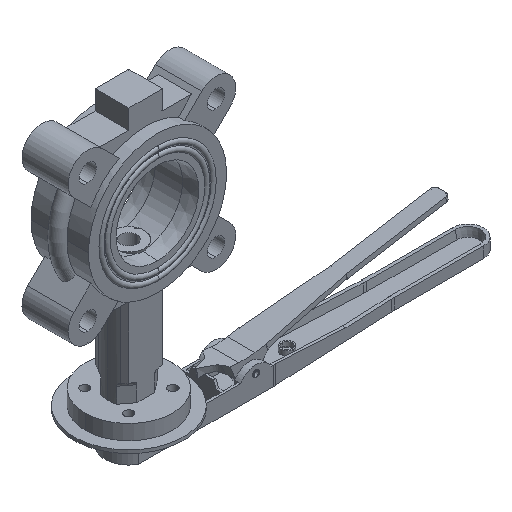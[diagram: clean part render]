
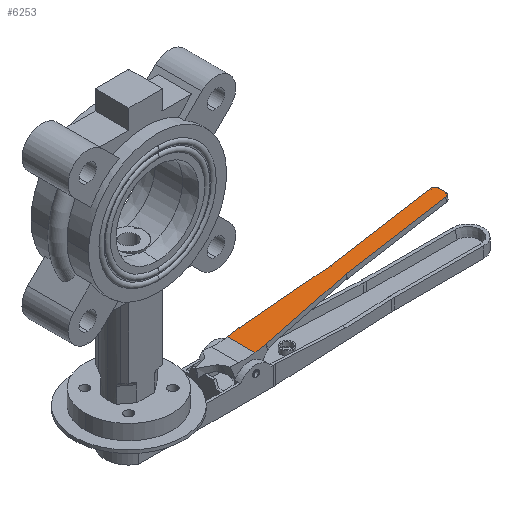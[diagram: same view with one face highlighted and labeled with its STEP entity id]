
A CAD part, isometric view. The second image highlights one B-rep face of the part: STEP entity #6253.
In plain terms, the highlighted planar face has unit normal (-0.165, 0, 0.986) as drawn and (0, 1, 0) by its records, which use the part's own axes.
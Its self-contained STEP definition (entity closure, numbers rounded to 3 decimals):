
#191 = LINE ( 'NONE', #7887, #8851 ) ;
#205 = CARTESIAN_POINT ( 'NONE',  ( 85.893, 0., 6.008 ) ) ;
#444 = CARTESIAN_POINT ( 'NONE',  ( 167., 0., 6. ) ) ;
#456 = VECTOR ( 'NONE', #462, 1000. ) ;
#462 = DIRECTION ( 'NONE',  ( -0.997, 0., -0.071 ) ) ;
#614 = DIRECTION ( 'NONE',  ( 0., -1., 0. ) ) ;
#727 = CARTESIAN_POINT ( 'NONE',  ( 15.893, 0., -11. ) ) ;
#1055 = VERTEX_POINT ( 'NONE', #8072 ) ;
#1207 = AXIS2_PLACEMENT_3D ( 'NONE', #9588, #3716, #1973 ) ;
#1222 = DIRECTION ( 'NONE',  ( 0., 0., -1. ) ) ;
#1472 = ORIENTED_EDGE ( 'NONE', *, *, #3958, .T. ) ;
#1489 = VERTEX_POINT ( 'NONE', #4952 ) ;
#1560 = VERTEX_POINT ( 'NONE', #7443 ) ;
#1562 = DIRECTION ( 'NONE',  ( 0., -1., 0. ) ) ;
#1565 = CARTESIAN_POINT ( 'NONE',  ( 6.654, 0., 6. ) ) ;
#1577 = VECTOR ( 'NONE', #1222, 1000. ) ;
#1651 = DIRECTION ( 'NONE',  ( 0., 1., 0. ) ) ;
#1780 = AXIS2_PLACEMENT_3D ( 'NONE', #8752, #1651, #8584 ) ;
#1968 = EDGE_CURVE ( 'NONE', #1560, #2016, #5473, .T. ) ;
#1973 = DIRECTION ( 'NONE',  ( 0., 0., -1. ) ) ;
#2016 = VERTEX_POINT ( 'NONE', #7859 ) ;
#2258 = ORIENTED_EDGE ( 'NONE', *, *, #6124, .T. ) ;
#2296 = DIRECTION ( 'NONE',  ( 0., 0., -1. ) ) ;
#2311 = DIRECTION ( 'NONE',  ( -1., 0., 0. ) ) ;
#2389 = DIRECTION ( 'NONE',  ( 0., 1., 0. ) ) ;
#2417 = CARTESIAN_POINT ( 'NONE',  ( 15.893, 0., 8. ) ) ;
#2477 = AXIS2_PLACEMENT_3D ( 'NONE', #2417, #9411, #6725 ) ;
#2605 = CARTESIAN_POINT ( 'NONE',  ( 167., 0., 3. ) ) ;
#2973 = ORIENTED_EDGE ( 'NONE', *, *, #1968, .T. ) ;
#2987 = CARTESIAN_POINT ( 'NONE',  ( 6.654, 0., 11. ) ) ;
#3009 = EDGE_CURVE ( 'NONE', #1055, #6862, #4058, .T. ) ;
#3149 = CARTESIAN_POINT ( 'NONE',  ( 6.654, 0., 11. ) ) ;
#3151 = DIRECTION ( 'NONE',  ( 1., 0., 0. ) ) ;
#3272 = EDGE_CURVE ( 'NONE', #6862, #4372, #5307, .T. ) ;
#3558 = CARTESIAN_POINT ( 'NONE',  ( 6.654, 0., 11. ) ) ;
#3628 = ORIENTED_EDGE ( 'NONE', *, *, #10866, .T. ) ;
#3716 = DIRECTION ( 'NONE',  ( 0., -1., 0. ) ) ;
#3775 = DIRECTION ( 'NONE',  ( 0., 0., -1. ) ) ;
#3875 = CARTESIAN_POINT ( 'NONE',  ( 6.654, 0., -6. ) ) ;
#3958 = EDGE_CURVE ( 'NONE', #9705, #7500, #4474, .T. ) ;
#4055 = CARTESIAN_POINT ( 'NONE',  ( 16.107, 0., 10.992 ) ) ;
#4058 = LINE ( 'NONE', #2987, #7364 ) ;
#4069 = DIRECTION ( 'NONE',  ( 0., 0., -1. ) ) ;
#4137 = DIRECTION ( 'NONE',  ( 0., 1., 0. ) ) ;
#4196 = DIRECTION ( 'NONE',  ( 0., 0., -1. ) ) ;
#4261 = VERTEX_POINT ( 'NONE', #727 ) ;
#4372 = VERTEX_POINT ( 'NONE', #4561 ) ;
#4474 = CIRCLE ( 'NONE', #1780, 3. ) ;
#4526 = ORIENTED_EDGE ( 'NONE', *, *, #9746, .T. ) ;
#4561 = CARTESIAN_POINT ( 'NONE',  ( 6.654, 0., -11. ) ) ;
#4778 = LINE ( 'NONE', #9113, #456 ) ;
#4907 = ORIENTED_EDGE ( 'NONE', *, *, #7635, .T. ) ;
#4913 = LINE ( 'NONE', #1565, #10628 ) ;
#4952 = CARTESIAN_POINT ( 'NONE',  ( 16.107, 0., -10.992 ) ) ;
#4984 = CIRCLE ( 'NONE', #9656, 3. ) ;
#5045 = ORIENTED_EDGE ( 'NONE', *, *, #8877, .T. ) ;
#5307 = LINE ( 'NONE', #8963, #1577 ) ;
#5315 = CARTESIAN_POINT ( 'NONE',  ( 170., 0., 11. ) ) ;
#5370 = CARTESIAN_POINT ( 'NONE',  ( 170., 0., 3. ) ) ;
#5473 = CIRCLE ( 'NONE', #6911, 3. ) ;
#5873 = FACE_OUTER_BOUND ( 'NONE', #9733, .T. ) ;
#5946 = ORIENTED_EDGE ( 'NONE', *, *, #10982, .T. ) ;
#5953 = DIRECTION ( 'NONE',  ( 0., 0., -1. ) ) ;
#5960 = CIRCLE ( 'NONE', #8834, 3. ) ;
#6096 = CIRCLE ( 'NONE', #1207, 3. ) ;
#6124 = EDGE_CURVE ( 'NONE', #7500, #1560, #8964, .T. ) ;
#6253 = ADVANCED_FACE ( 'NONE', ( #5873 ), #8508, .F. ) ;
#6602 = VERTEX_POINT ( 'NONE', #444 ) ;
#6725 = DIRECTION ( 'NONE',  ( 0., 0., -1. ) ) ;
#6734 = EDGE_CURVE ( 'NONE', #6602, #10145, #5960, .T. ) ;
#6862 = VERTEX_POINT ( 'NONE', #3558 ) ;
#6911 = AXIS2_PLACEMENT_3D ( 'NONE', #8365, #614, #4069 ) ;
#7102 = VERTEX_POINT ( 'NONE', #7685 ) ;
#7210 = ORIENTED_EDGE ( 'NONE', *, *, #6734, .T. ) ;
#7349 = VECTOR ( 'NONE', #3775, 1000. ) ;
#7364 = VECTOR ( 'NONE', #2311, 1000. ) ;
#7415 = VECTOR ( 'NONE', #9860, 1000. ) ;
#7443 = CARTESIAN_POINT ( 'NONE',  ( 86.107, 0., -6. ) ) ;
#7482 = CARTESIAN_POINT ( 'NONE',  ( 170., 0., -3. ) ) ;
#7500 = VERTEX_POINT ( 'NONE', #8064 ) ;
#7635 = EDGE_CURVE ( 'NONE', #7102, #6602, #4913, .T. ) ;
#7685 = CARTESIAN_POINT ( 'NONE',  ( 86.107, 0., 6. ) ) ;
#7733 = ORIENTED_EDGE ( 'NONE', *, *, #3009, .F. ) ;
#7840 = EDGE_CURVE ( 'NONE', #4261, #4372, #191, .T. ) ;
#7859 = CARTESIAN_POINT ( 'NONE',  ( 85.893, 0., -6.008 ) ) ;
#7887 = CARTESIAN_POINT ( 'NONE',  ( 6.654, 0., -11. ) ) ;
#8064 = CARTESIAN_POINT ( 'NONE',  ( 167., 0., -6. ) ) ;
#8072 = CARTESIAN_POINT ( 'NONE',  ( 15.893, 0., 11. ) ) ;
#8324 = CARTESIAN_POINT ( 'NONE',  ( 15.893, 0., -8. ) ) ;
#8365 = CARTESIAN_POINT ( 'NONE',  ( 86.107, 0., -9. ) ) ;
#8409 = VECTOR ( 'NONE', #10313, 1000. ) ;
#8508 = PLANE ( 'NONE',  #9037 ) ;
#8584 = DIRECTION ( 'NONE',  ( 0., 0., -1. ) ) ;
#8614 = DIRECTION ( 'NONE',  ( -1., 0., 0. ) ) ;
#8705 = VERTEX_POINT ( 'NONE', #205 ) ;
#8752 = CARTESIAN_POINT ( 'NONE',  ( 167., 0., -3. ) ) ;
#8797 = CARTESIAN_POINT ( 'NONE',  ( 6.701, 0., 11.664 ) ) ;
#8834 = AXIS2_PLACEMENT_3D ( 'NONE', #2605, #2389, #5953 ) ;
#8851 = VECTOR ( 'NONE', #8614, 1000. ) ;
#8877 = EDGE_CURVE ( 'NONE', #1055, #11108, #10212, .T. ) ;
#8963 = CARTESIAN_POINT ( 'NONE',  ( 6.654, 0., 11. ) ) ;
#8964 = LINE ( 'NONE', #3875, #7415 ) ;
#9037 = AXIS2_PLACEMENT_3D ( 'NONE', #3149, #1562, #2296 ) ;
#9057 = ORIENTED_EDGE ( 'NONE', *, *, #10227, .T. ) ;
#9113 = CARTESIAN_POINT ( 'NONE',  ( 8.264, 0., -11.553 ) ) ;
#9308 = ORIENTED_EDGE ( 'NONE', *, *, #3272, .F. ) ;
#9411 = DIRECTION ( 'NONE',  ( 0., 1., 0. ) ) ;
#9588 = CARTESIAN_POINT ( 'NONE',  ( 86.107, 0., 9. ) ) ;
#9656 = AXIS2_PLACEMENT_3D ( 'NONE', #8324, #4137, #4196 ) ;
#9705 = VERTEX_POINT ( 'NONE', #7482 ) ;
#9733 = EDGE_LOOP ( 'NONE', ( #4907, #7210, #3628, #1472, #2258, #2973, #9057, #4526, #10341, #9308, #7733, #5045, #10136, #5946 ) ) ;
#9746 = EDGE_CURVE ( 'NONE', #1489, #4261, #4984, .T. ) ;
#9860 = DIRECTION ( 'NONE',  ( -1., 0., 0. ) ) ;
#10136 = ORIENTED_EDGE ( 'NONE', *, *, #10149, .T. ) ;
#10145 = VERTEX_POINT ( 'NONE', #5370 ) ;
#10149 = EDGE_CURVE ( 'NONE', #11108, #8705, #11150, .T. ) ;
#10212 = CIRCLE ( 'NONE', #2477, 3. ) ;
#10227 = EDGE_CURVE ( 'NONE', #2016, #1489, #4778, .T. ) ;
#10313 = DIRECTION ( 'NONE',  ( 0.997, 0., -0.071 ) ) ;
#10341 = ORIENTED_EDGE ( 'NONE', *, *, #7840, .T. ) ;
#10628 = VECTOR ( 'NONE', #3151, 1000. ) ;
#10655 = LINE ( 'NONE', #5315, #7349 ) ;
#10866 = EDGE_CURVE ( 'NONE', #10145, #9705, #10655, .T. ) ;
#10982 = EDGE_CURVE ( 'NONE', #8705, #7102, #6096, .T. ) ;
#11108 = VERTEX_POINT ( 'NONE', #4055 ) ;
#11150 = LINE ( 'NONE', #8797, #8409 ) ;
